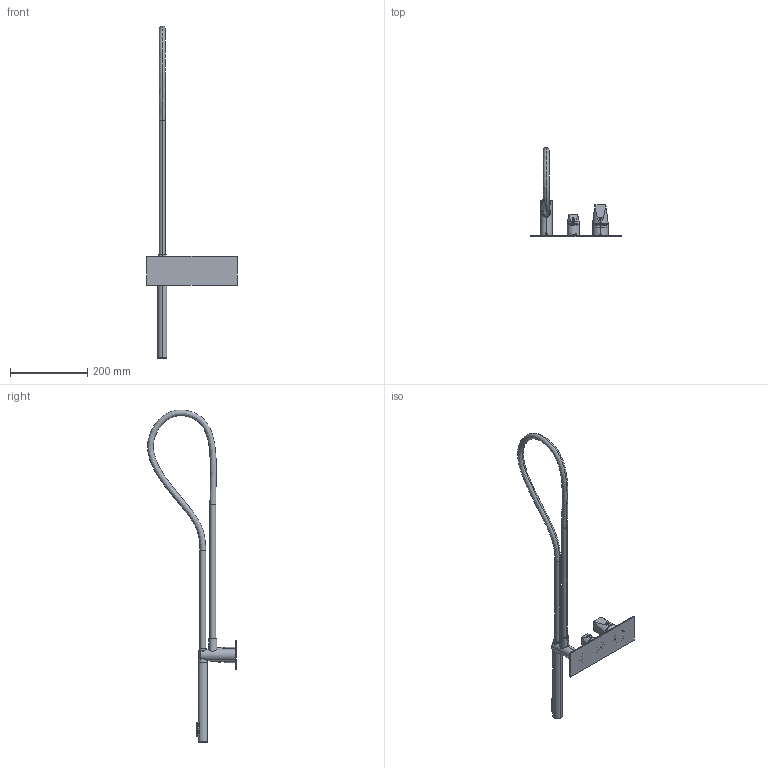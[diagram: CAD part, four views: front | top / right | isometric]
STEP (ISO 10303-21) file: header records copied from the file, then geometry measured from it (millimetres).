
FILE_DESCRIPTION((''),'2;1');
FILE_NAME('49529V221_SW0001','2023-09-20T16:48:47',('carloff'),(''),'CREO PARAMETRIC BY PTC INC, 2022014','CREO PARAMETRIC BY PTC INC, 2022014','');
FILE_SCHEMA(('CONFIG_CONTROL_DESIGN'));
Length unit declared in the file: millimetre
Products named in the file (1): 49529V221_SW0001
Bounding box: 235 x 229.86 x 859.7 mm (x, y, z)
Volume: 510448.5 mm3; surface area: 172434.5 mm2
Topology: 3 solids, 3 shells, 890 faces, 2308 edges, 1471 vertices
Faces by surface type: plane 340, cylinder 315, torus 136, cone 74, bspline 21, sphere 4
Entity records: 34160 total; most frequent: CARTESIAN_POINT 12498, ORIENTED_EDGE 4600, DIRECTION 4483, EDGE_CURVE 2300, AXIS2_PLACEMENT_3D 1735, VERTEX_POINT 1471, VECTOR 1013, LINE 1013
